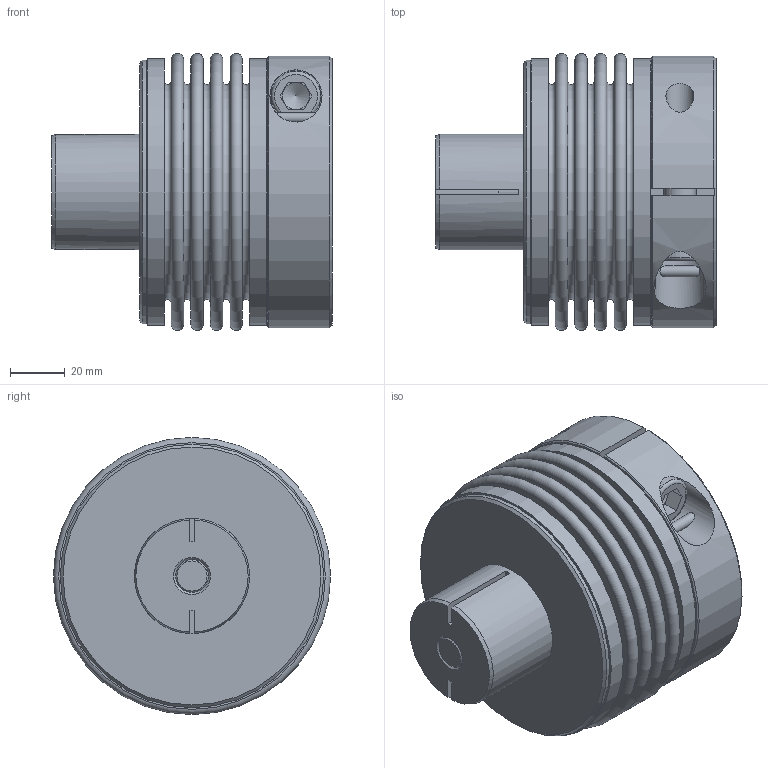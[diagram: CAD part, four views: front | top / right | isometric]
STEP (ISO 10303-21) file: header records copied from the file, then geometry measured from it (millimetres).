
FILE_DESCRIPTION(/* description */ ('Unknown'),/* implementation_level */ '2;1');
FILE_NAME(/* name */ 'KPS 400',/* time_stamp */ '2021-02-22T12:24:44+01:00',/* author */ ('Unknown'),/* organization */ ('Unknown'),/* preprocessor_version */ 'ST-DEVELOPER v16.7',/* originating_system */ 'DEX',/* authorisation */ $);
FILE_SCHEMA (('AUTOMOTIVE_DESIGN {1 0 10303 214 3 1 1}'));
Length unit declared in the file: millimetre
Products named in the file (1): KPS 400
Bounding box: 102.2 x 101 x 101 mm (x, y, z)
Volume: 337839.3 mm3; surface area: 119456 mm2
Topology: 1 solids, 1 shells, 130 faces, 282 edges, 182 vertices
Faces by surface type: plane 72, cylinder 24, torus 20, cone 14
Full cylindrical faces by diameter (mm): 10.2 x1, 12 x3, 12.5 x2, 18 x2, 19 x1, 42 x1, 95.4 x1, 96 x1, 97.2 x2
Entity records: 3380 total; most frequent: CARTESIAN_POINT 651, DIRECTION 597, ORIENTED_EDGE 454, AXIS2_PLACEMENT_3D 248, EDGE_CURVE 227, FACE_BOUND 206, EDGE_LOOP 204, VERTEX_POINT 169
